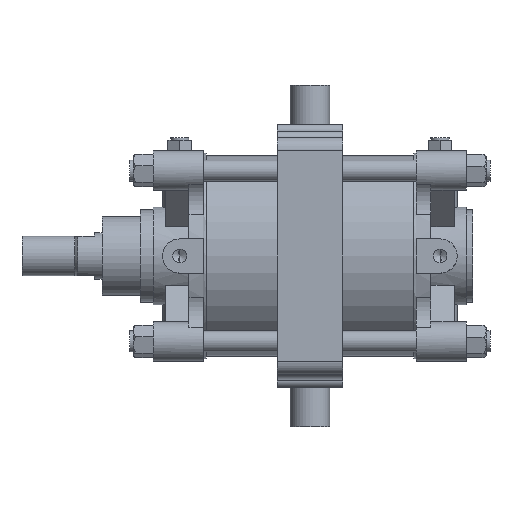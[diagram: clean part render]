
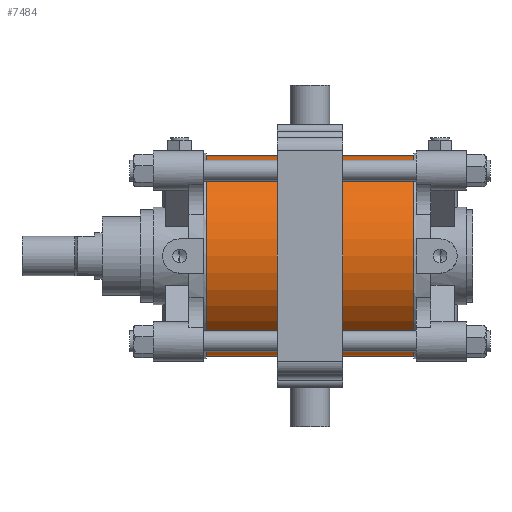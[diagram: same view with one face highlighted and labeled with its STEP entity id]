
A CAD part, front view. The second image highlights one B-rep face of the part: STEP entity #7484.
In plain terms, the highlighted cylindrical face has radius 76.5 mm (diameter 153 mm), a partial arc.
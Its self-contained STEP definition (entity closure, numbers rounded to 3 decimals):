
#369 = CARTESIAN_POINT ( 'NONE',  ( -79., 0., -76.5 ) ) ;
#595 = AXIS2_PLACEMENT_3D ( 'NONE', #7390, #8243, #2073 ) ;
#1065 = ORIENTED_EDGE ( 'NONE', *, *, #5476, .F. ) ;
#1122 = CARTESIAN_POINT ( 'NONE',  ( -79., 0., 76.5 ) ) ;
#1204 = DIRECTION ( 'NONE',  ( -1., 0., 0. ) ) ;
#1374 = LINE ( 'NONE', #7576, #7949 ) ;
#1792 = CIRCLE ( 'NONE', #9106, 76.5 ) ;
#2073 = DIRECTION ( 'NONE',  ( 0., 0., -1. ) ) ;
#2293 = CARTESIAN_POINT ( 'NONE',  ( 79., 0., -76.5 ) ) ;
#2667 = EDGE_CURVE ( 'NONE', #10736, #8522, #1374, .T. ) ;
#3431 = EDGE_CURVE ( 'NONE', #8522, #4675, #1792, .T. ) ;
#3634 = FACE_OUTER_BOUND ( 'NONE', #5826, .T. ) ;
#3882 = DIRECTION ( 'NONE',  ( -1., 0., 0. ) ) ;
#3947 = EDGE_CURVE ( 'NONE', #10736, #4217, #10875, .T. ) ;
#4217 = VERTEX_POINT ( 'NONE', #2293 ) ;
#4675 = VERTEX_POINT ( 'NONE', #369 ) ;
#4868 = DIRECTION ( 'NONE',  ( -1., 0., 0. ) ) ;
#5203 = AXIS2_PLACEMENT_3D ( 'NONE', #8556, #4868, #7679 ) ;
#5304 = CARTESIAN_POINT ( 'NONE',  ( 79., 0., -76.5 ) ) ;
#5476 = EDGE_CURVE ( 'NONE', #4217, #4675, #9340, .T. ) ;
#5639 = VECTOR ( 'NONE', #1204, 1000. ) ;
#5826 = EDGE_LOOP ( 'NONE', ( #1065, #6224, #7786, #8612 ) ) ;
#5834 = CARTESIAN_POINT ( 'NONE',  ( 79., 0., 76.5 ) ) ;
#6224 = ORIENTED_EDGE ( 'NONE', *, *, #3947, .F. ) ;
#7149 = CYLINDRICAL_SURFACE ( 'NONE', #5203, 76.5 ) ;
#7390 = CARTESIAN_POINT ( 'NONE',  ( 79., 0., 0. ) ) ;
#7484 = ADVANCED_FACE ( 'NONE', ( #3634 ), #7149, .T. ) ;
#7576 = CARTESIAN_POINT ( 'NONE',  ( 79., 0., 76.5 ) ) ;
#7679 = DIRECTION ( 'NONE',  ( 0., 0., 1. ) ) ;
#7786 = ORIENTED_EDGE ( 'NONE', *, *, #2667, .T. ) ;
#7949 = VECTOR ( 'NONE', #3882, 1000. ) ;
#8202 = DIRECTION ( 'NONE',  ( 1., 0., 0. ) ) ;
#8243 = DIRECTION ( 'NONE',  ( 1., 0., 0. ) ) ;
#8370 = CARTESIAN_POINT ( 'NONE',  ( -79., 0., 0. ) ) ;
#8522 = VERTEX_POINT ( 'NONE', #1122 ) ;
#8556 = CARTESIAN_POINT ( 'NONE',  ( 79., 0., 0. ) ) ;
#8612 = ORIENTED_EDGE ( 'NONE', *, *, #3431, .T. ) ;
#9106 = AXIS2_PLACEMENT_3D ( 'NONE', #8370, #8202, #9941 ) ;
#9340 = LINE ( 'NONE', #5304, #5639 ) ;
#9941 = DIRECTION ( 'NONE',  ( 0., 0., -1. ) ) ;
#10736 = VERTEX_POINT ( 'NONE', #5834 ) ;
#10875 = CIRCLE ( 'NONE', #595, 76.5 ) ;
